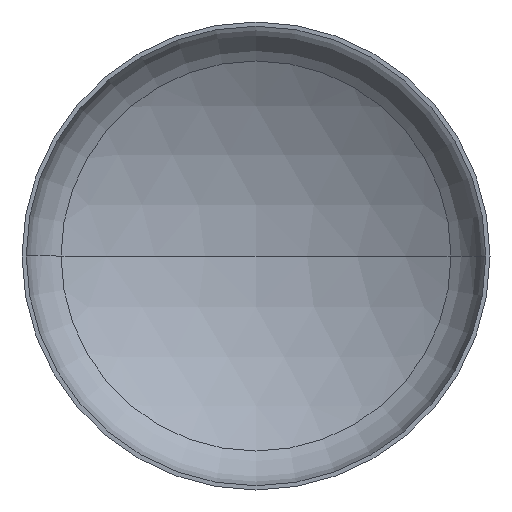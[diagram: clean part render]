
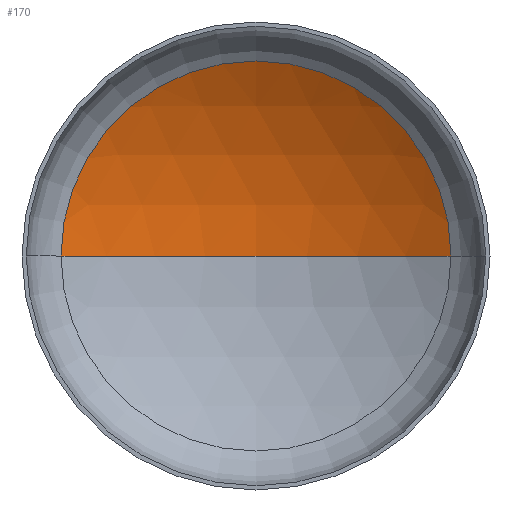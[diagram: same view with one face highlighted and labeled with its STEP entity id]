
A CAD part, front view. The second image highlights one B-rep face of the part: STEP entity #170.
In plain terms, the highlighted spherical face has radius 1600 mm.
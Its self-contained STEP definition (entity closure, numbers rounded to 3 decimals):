
#5 = EDGE_LOOP ( 'NONE', ( #78, #33, #72 ) ) ;
#23 = DIRECTION ( 'NONE',  ( 0., 0., 1. ) ) ;
#33 = ORIENTED_EDGE ( 'NONE', *, *, #188, .T. ) ;
#34 = CARTESIAN_POINT ( 'NONE',  ( 0., -1046.143, 0. ) ) ;
#55 = DIRECTION ( 'NONE',  ( 1., 0., 0. ) ) ;
#72 = ORIENTED_EDGE ( 'NONE', *, *, #181, .T. ) ;
#77 = VERTEX_POINT ( 'NONE', #244 ) ;
#78 = ORIENTED_EDGE ( 'NONE', *, *, #196, .F. ) ;
#82 = VERTEX_POINT ( 'NONE', #227 ) ;
#91 = AXIS2_PLACEMENT_3D ( 'NONE', #34, #23, #55 ) ;
#92 = AXIS2_PLACEMENT_3D ( 'NONE', #268, #260, #243 ) ;
#94 = CIRCLE ( 'NONE', #92, 1600. ) ;
#98 = AXIS2_PLACEMENT_3D ( 'NONE', #209, #304, #276 ) ;
#104 = AXIS2_PLACEMENT_3D ( 'NONE', #216, #257, #255 ) ;
#143 = VERTEX_POINT ( 'NONE', #323 ) ;
#170 = ADVANCED_FACE ( 'NONE', ( #197 ), #382, .F. ) ;
#181 = EDGE_CURVE ( 'NONE', #143, #82, #318, .T. ) ;
#188 = EDGE_CURVE ( 'NONE', #77, #143, #94, .T. ) ;
#196 = EDGE_CURVE ( 'NONE', #77, #82, #259, .T. ) ;
#197 = FACE_OUTER_BOUND ( 'NONE', #5, .T. ) ;
#209 = CARTESIAN_POINT ( 'NONE',  ( 0., -1046.143, 0. ) ) ;
#216 = CARTESIAN_POINT ( 'NONE',  ( 0., 319.616, 0. ) ) ;
#227 = CARTESIAN_POINT ( 'NONE',  ( -833.488, 319.616, 0. ) ) ;
#243 = DIRECTION ( 'NONE',  ( -1., 0., 0. ) ) ;
#244 = CARTESIAN_POINT ( 'NONE',  ( 0., 553.857, 0. ) ) ;
#255 = DIRECTION ( 'NONE',  ( 1., 0., 0. ) ) ;
#257 = DIRECTION ( 'NONE',  ( 0., -1., 0. ) ) ;
#259 = CIRCLE ( 'NONE', #91, 1600. ) ;
#260 = DIRECTION ( 'NONE',  ( 0., 0., -1. ) ) ;
#268 = CARTESIAN_POINT ( 'NONE',  ( 0., -1046.143, 0. ) ) ;
#276 = DIRECTION ( 'NONE',  ( -1., 0., 0. ) ) ;
#304 = DIRECTION ( 'NONE',  ( 0., 0., -1. ) ) ;
#318 = CIRCLE ( 'NONE', #104, 833.488 ) ;
#323 = CARTESIAN_POINT ( 'NONE',  ( 833.488, 319.616, 0. ) ) ;
#382 = SPHERICAL_SURFACE ( 'NONE', #98, 1600. ) ;
